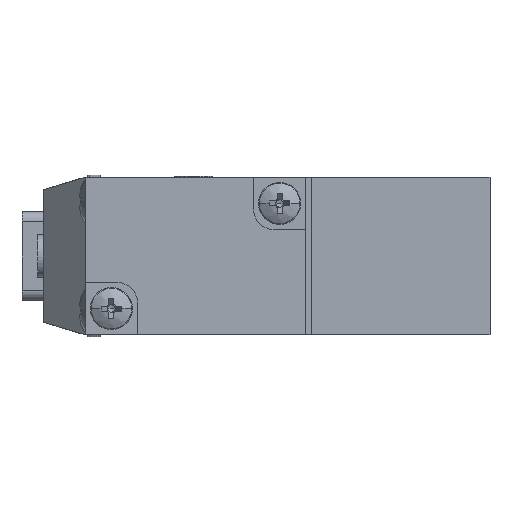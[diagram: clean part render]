
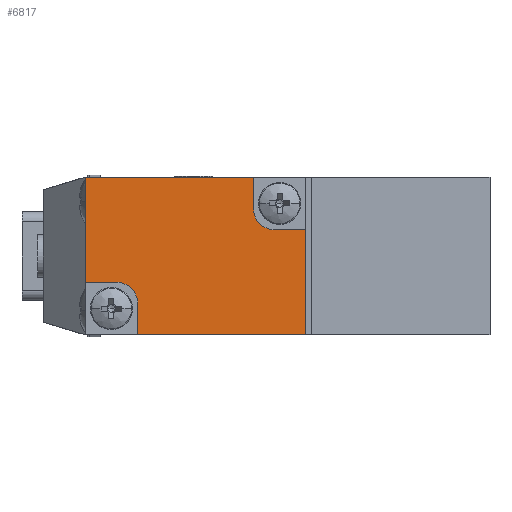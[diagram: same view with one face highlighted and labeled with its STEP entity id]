
A CAD part, left-side view. The second image highlights one B-rep face of the part: STEP entity #6817.
In plain terms, the highlighted planar face has unit normal (-1, 0, 0).
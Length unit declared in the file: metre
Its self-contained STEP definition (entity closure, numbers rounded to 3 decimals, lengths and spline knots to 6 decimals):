
#194 = EDGE_CURVE ( 'NONE', #5587, #3513, #761, .T. ) ;
#375 = DIRECTION ( 'NONE',  ( 0., 0., -1. ) ) ;
#761 = LINE ( 'NONE', #3374, #3168 ) ;
#773 = VECTOR ( 'NONE', #9187, 1. ) ;
#863 = CARTESIAN_POINT ( 'NONE',  ( -0.009, 0.021, 0.0075 ) ) ;
#978 = DIRECTION ( 'NONE',  ( 0., 1., 0. ) ) ;
#1364 = ORIENTED_EDGE ( 'NONE', *, *, #194, .T. ) ;
#1383 = ORIENTED_EDGE ( 'NONE', *, *, #6266, .F. ) ;
#1609 = ORIENTED_EDGE ( 'NONE', *, *, #5299, .F. ) ;
#1637 = EDGE_CURVE ( 'NONE', #5164, #5587, #6831, .T. ) ;
#1677 = VERTEX_POINT ( 'NONE', #2002 ) ;
#1705 = CARTESIAN_POINT ( 'NONE',  ( -0.009, 0.0015, 0.0025 ) ) ;
#1760 = CARTESIAN_POINT ( 'NONE',  ( -0.009, 0.0105, 0.0075 ) ) ;
#1786 = VERTEX_POINT ( 'NONE', #2649 ) ;
#1788 = DIRECTION ( 'NONE',  ( 0., 1., 0. ) ) ;
#1986 = EDGE_LOOP ( 'NONE', ( #5072, #7590, #7207, #4020, #1364, #4307, #1609, #1383, #7001, #7627 ) ) ;
#2002 = CARTESIAN_POINT ( 'NONE',  ( -0.009, 0.003, 0.0025 ) ) ;
#2033 = LINE ( 'NONE', #3885, #8168 ) ;
#2108 = LINE ( 'NONE', #4617, #8508 ) ;
#2182 = VECTOR ( 'NONE', #9799, 1. ) ;
#2429 = VERTEX_POINT ( 'NONE', #9023 ) ;
#2516 = AXIS2_PLACEMENT_3D ( 'NONE', #8013, #8834, #3810 ) ;
#2543 = DIRECTION ( 'NONE',  ( 0., 0., -1. ) ) ;
#2649 = CARTESIAN_POINT ( 'NONE',  ( -0.009, 0., 0.0025 ) ) ;
#2825 = CARTESIAN_POINT ( 'NONE',  ( -0.009, 0., -0.0075 ) ) ;
#2827 = EDGE_CURVE ( 'NONE', #8055, #1786, #2108, .T. ) ;
#2980 = CIRCLE ( 'NONE', #5470, 0.002 ) ;
#3168 = VECTOR ( 'NONE', #2543, 1. ) ;
#3365 = CARTESIAN_POINT ( 'NONE',  ( -0.009, 0.016, -0.0045 ) ) ;
#3374 = CARTESIAN_POINT ( 'NONE',  ( -0.009, 0.021, 0. ) ) ;
#3513 = VERTEX_POINT ( 'NONE', #5059 ) ;
#3810 = DIRECTION ( 'NONE',  ( 0., 0., -1. ) ) ;
#3885 = CARTESIAN_POINT ( 'NONE',  ( -0.009, 0.0105, -0.0075 ) ) ;
#4020 = ORIENTED_EDGE ( 'NONE', *, *, #1637, .T. ) ;
#4307 = ORIENTED_EDGE ( 'NONE', *, *, #10136, .F. ) ;
#4617 = CARTESIAN_POINT ( 'NONE',  ( -0.009, 0., 0. ) ) ;
#4854 = LINE ( 'NONE', #9254, #9280 ) ;
#4862 = VECTOR ( 'NONE', #1788, 1. ) ;
#4910 = FACE_OUTER_BOUND ( 'NONE', #1986, .T. ) ;
#5059 = CARTESIAN_POINT ( 'NONE',  ( -0.009, 0.021, -0.0025 ) ) ;
#5072 = ORIENTED_EDGE ( 'NONE', *, *, #9016, .T. ) ;
#5139 = VERTEX_POINT ( 'NONE', #8598 ) ;
#5143 = LINE ( 'NONE', #1705, #773 ) ;
#5164 = VERTEX_POINT ( 'NONE', #8746 ) ;
#5195 = AXIS2_PLACEMENT_3D ( 'NONE', #10215, #5291, #375 ) ;
#5291 = DIRECTION ( 'NONE',  ( -1., 0., 0. ) ) ;
#5299 = EDGE_CURVE ( 'NONE', #5770, #5139, #2980, .T. ) ;
#5416 = EDGE_CURVE ( 'NONE', #2429, #5164, #8590, .T. ) ;
#5470 = AXIS2_PLACEMENT_3D ( 'NONE', #10292, #10319, #10351 ) ;
#5530 = DIRECTION ( 'NONE',  ( 0., 0., 1. ) ) ;
#5587 = VERTEX_POINT ( 'NONE', #863 ) ;
#5661 = CARTESIAN_POINT ( 'NONE',  ( -0.009, 0.005, 0.006 ) ) ;
#5703 = DIRECTION ( 'NONE',  ( 0., 0., 1. ) ) ;
#5770 = VERTEX_POINT ( 'NONE', #3365 ) ;
#5804 = CIRCLE ( 'NONE', #5195, 0.002 ) ;
#6266 = EDGE_CURVE ( 'NONE', #7697, #5770, #6372, .T. ) ;
#6324 = PLANE ( 'NONE',  #2516 ) ;
#6372 = LINE ( 'NONE', #9628, #2182 ) ;
#6414 = CARTESIAN_POINT ( 'NONE',  ( -0.009, 0.016, -0.0075 ) ) ;
#6817 = ADVANCED_FACE ( 'NONE', ( #4910 ), #6324, .F. ) ;
#6831 = LINE ( 'NONE', #1760, #4862 ) ;
#7001 = ORIENTED_EDGE ( 'NONE', *, *, #8280, .F. ) ;
#7207 = ORIENTED_EDGE ( 'NONE', *, *, #5416, .T. ) ;
#7590 = ORIENTED_EDGE ( 'NONE', *, *, #8619, .F. ) ;
#7627 = ORIENTED_EDGE ( 'NONE', *, *, #2827, .T. ) ;
#7697 = VERTEX_POINT ( 'NONE', #6414 ) ;
#8013 = CARTESIAN_POINT ( 'NONE',  ( -0.009, 0., 0.0075 ) ) ;
#8055 = VERTEX_POINT ( 'NONE', #2825 ) ;
#8168 = VECTOR ( 'NONE', #8913, 1. ) ;
#8280 = EDGE_CURVE ( 'NONE', #8055, #7697, #2033, .T. ) ;
#8508 = VECTOR ( 'NONE', #5530, 1. ) ;
#8590 = LINE ( 'NONE', #5661, #8848 ) ;
#8598 = CARTESIAN_POINT ( 'NONE',  ( -0.009, 0.018, -0.0025 ) ) ;
#8619 = EDGE_CURVE ( 'NONE', #2429, #1677, #5804, .T. ) ;
#8746 = CARTESIAN_POINT ( 'NONE',  ( -0.009, 0.005, 0.0075 ) ) ;
#8834 = DIRECTION ( 'NONE',  ( 1., 0., 0. ) ) ;
#8848 = VECTOR ( 'NONE', #5703, 1. ) ;
#8913 = DIRECTION ( 'NONE',  ( 0., 1., 0. ) ) ;
#9016 = EDGE_CURVE ( 'NONE', #1786, #1677, #5143, .T. ) ;
#9023 = CARTESIAN_POINT ( 'NONE',  ( -0.009, 0.005, 0.0045 ) ) ;
#9187 = DIRECTION ( 'NONE',  ( 0., 1., 0. ) ) ;
#9254 = CARTESIAN_POINT ( 'NONE',  ( -0.009, 0.0105, -0.0025 ) ) ;
#9280 = VECTOR ( 'NONE', #978, 1. ) ;
#9628 = CARTESIAN_POINT ( 'NONE',  ( -0.009, 0.016, 0. ) ) ;
#9799 = DIRECTION ( 'NONE',  ( 0., 0., 1. ) ) ;
#10136 = EDGE_CURVE ( 'NONE', #5139, #3513, #4854, .T. ) ;
#10215 = CARTESIAN_POINT ( 'NONE',  ( -0.009, 0.003, 0.0045 ) ) ;
#10292 = CARTESIAN_POINT ( 'NONE',  ( -0.009, 0.018, -0.0045 ) ) ;
#10319 = DIRECTION ( 'NONE',  ( -1., 0., 0. ) ) ;
#10351 = DIRECTION ( 'NONE',  ( 0., 0., -1. ) ) ;
